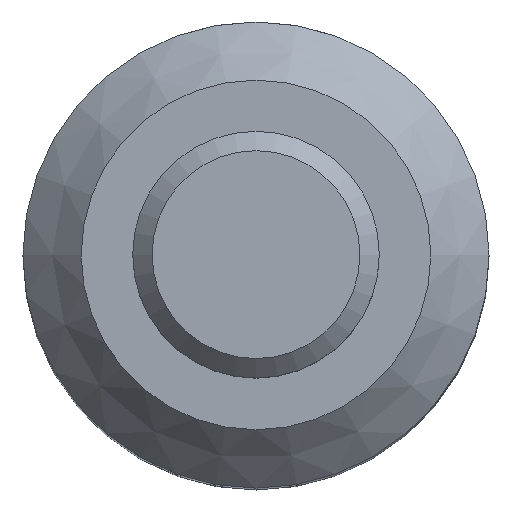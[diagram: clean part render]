
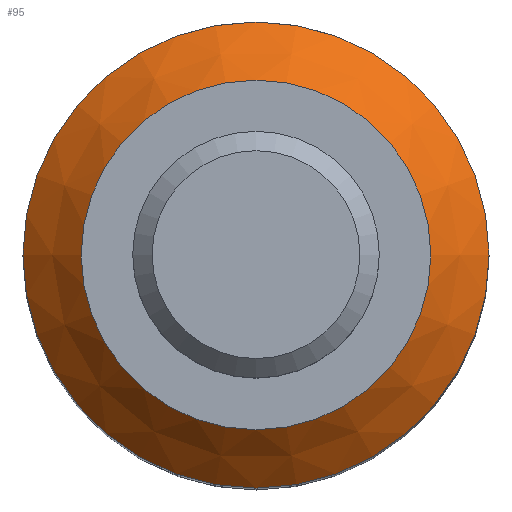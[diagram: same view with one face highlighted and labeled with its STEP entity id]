
A CAD part, top view. The second image highlights one B-rep face of the part: STEP entity #95.
In plain terms, the highlighted conical face has half-angle 45 degrees and reference radius 5.25 mm.
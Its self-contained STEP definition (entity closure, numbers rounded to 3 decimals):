
#68=CARTESIAN_POINT('',(0.0,0.0,29.25));
#69=DIRECTION('',(0.0,0.0,-1.0));
#70=DIRECTION('',(-1.0,0.0,0.0));
#71=AXIS2_PLACEMENT_3D('',#68,#69,#70);
#72=CONICAL_SURFACE('',#71,5.25,45.);
#73=CARTESIAN_POINT('',(4.5,0.,30.0));
#74=VERTEX_POINT('',#73);
#75=CARTESIAN_POINT('',(0.0,0.0,30.0));
#76=DIRECTION('',(0.0,0.0,-1.0));
#77=DIRECTION('',(-1.0,0.0,0.0));
#78=AXIS2_PLACEMENT_3D('',#75,#76,#77);
#79=CIRCLE('',#78,4.5);
#80=EDGE_CURVE('',#74,#74,#79,.T.);
#81=ORIENTED_EDGE('',*,*,#80,.T.);
#82=EDGE_LOOP('',(#81));
#83=FACE_OUTER_BOUND('',#82,.T.);
#84=CARTESIAN_POINT('',(6.,0.,28.5));
#85=VERTEX_POINT('',#84);
#86=CARTESIAN_POINT('',(0.0,0.0,28.5));
#87=DIRECTION('',(0.0,0.0,1.0));
#88=DIRECTION('',(-1.0,0.0,0.0));
#89=AXIS2_PLACEMENT_3D('',#86,#87,#88);
#90=CIRCLE('',#89,6.);
#91=EDGE_CURVE('',#85,#85,#90,.T.);
#92=ORIENTED_EDGE('',*,*,#91,.T.);
#93=EDGE_LOOP('',(#92));
#94=FACE_BOUND('',#93,.T.);
#95=ADVANCED_FACE('',(#83,#94),#72,.T.);
